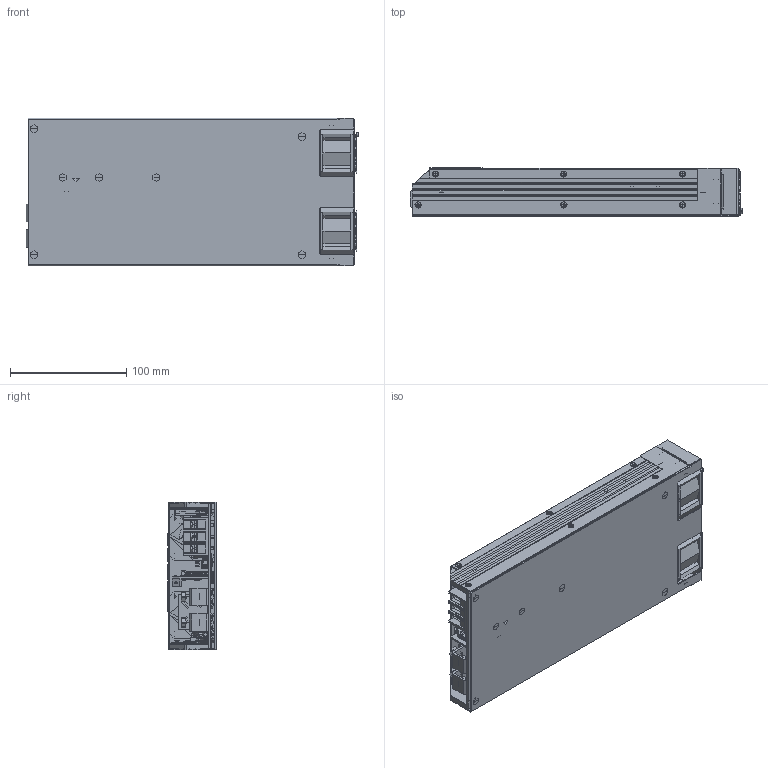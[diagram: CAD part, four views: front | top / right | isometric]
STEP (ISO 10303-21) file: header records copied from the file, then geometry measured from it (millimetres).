
FILE_DESCRIPTION(/* description */ (''),/* implementation_level */ '2;1');
FILE_NAME(/* name */ 'GSP2200W-20250801',/* time_stamp */ '2025-08-01T16:03:37+08:00',/* author */ (''),/* organization */ (''),/* preprocessor_version */ 'ST-DEVELOPER v16.5',/* originating_system */ '',/* authorisation */ '');
FILE_SCHEMA (('AUTOMOTIVE_DESIGN'));
Products named in the file (150): Document; R952-S2-0813A; R0603-S2-0813A; R835-S2-0813A; R833-S2-0813A; C812-S2-0813A; cap_0603-H0.8-S2-0813A; C811-S2-0813A; R717-S2-0813A; R718-S2-0813A; R806-S2-0813A; R818-S2-0813A; R824-S2-0813A; R724-S2-0813A; R728-S2-0813A; R725-S2-0813A; R729-S2-0813A; R836-S2-0813A; R834-S2-0813A; R956-S2-0813A; C943-S2-0813A; CAP-1206-H1.6-S2-0813A; C944-S2-0813A; CAP-0805-H1.2-S2-0813A; C963-S2-0813A; C960-S2-0813A; C964-S2-0813A; C962-S2-0813A; C961-S2-0813A; D908-S2-0813A; SOD-323-S2-0813A; 图块 03; IC906-S2-0813A; SOP8-S2-0813A; IC907-S2-0813A; SOT23-5-S2-0813A; Q904-S2-0813A; 963265088-S2-0813A; Body_1-S2-0813A; Open_CASCADE_STEP_translator_6.8_1.1.1_1-S2-0813A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
Assembly tree (254 placements, depth 5):
  Document
    R952-S2-0813A
      R0603-S2-0813A
    R835-S2-0813A
      R0603-S2-0813A
    R833-S2-0813A
      R0603-S2-0813A
    C812-S2-0813A
      cap_0603-H0.8-S2-0813A
    C811-S2-0813A
      cap_0603-H0.8-S2-0813A
    R717-S2-0813A
      R0603-S2-0813A
    R718-S2-0813A
      R0603-S2-0813A
    R806-S2-0813A
      R0603-S2-0813A
    R818-S2-0813A
      R0603-S2-0813A
    R824-S2-0813A
      R0603-S2-0813A
    R724-S2-0813A
      R0603-S2-0813A
    R728-S2-0813A
      R0603-S2-0813A
    R725-S2-0813A
      R0603-S2-0813A
    R729-S2-0813A
      R0603-S2-0813A
    R836-S2-0813A
      R0603-S2-0813A
    R834-S2-0813A
      R0603-S2-0813A
    R956-S2-0813A
      R0603-S2-0813A
    C943-S2-0813A
      CAP-1206-H1.6-S2-0813A
    C944-S2-0813A
      CAP-0805-H1.2-S2-0813A
    C963-S2-0813A
      cap_0603-H0.8-S2-0813A
    C960-S2-0813A
      cap_0603-H0.8-S2-0813A
    C964-S2-0813A
      CAP-0805-H1.2-S2-0813A
    C962-S2-0813A
      cap_0603-H0.8-S2-0813A
    C961-S2-0813A
      cap_0603-H0.8-S2-0813A
    D908-S2-0813A
      SOD-323-S2-0813A
        图块 03
    IC906-S2-0813A
      SOP8-S2-0813A
    IC907-S2-0813A
      SOT23-5-S2-0813A
    Q904-S2-0813A
      963265088-S2-0813A
        Body_1-S2-0813A
          Open_CASCADE_STEP_translator_6.8_1.1.1_1-S2-0813A
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Bounding box: 285.04 x 41.35 x 127 mm (x, y, z)
Volume: 222058.8 mm3; surface area: 548323.1 mm2
Topology: 270 solids, 2885 shells, 15538 faces, 49596 edges, 35579 vertices
Faces by surface type: bspline 15538
Entity records: 924905 total; most frequent: CARTESIAN_POINT 482356, B_SPLINE_CURVE_WITH_KNOTS 76426, ORIENTED_EDGE 57674, PCURVE 57674, DEFINITIONAL_REPRESENTATION 57674, SURFACE_CURVE 36617, EDGE_CURVE 36617, VERTEX_POINT 27421
